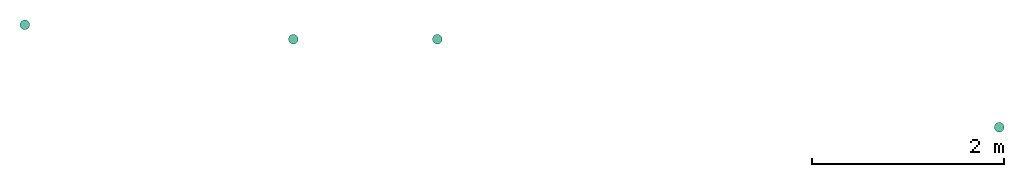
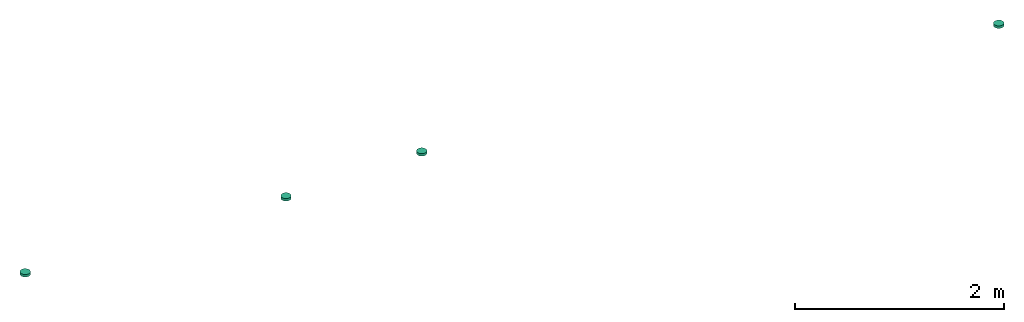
# One storey: 4 distribution control elements.
"""IFC2X3 building model written with IfcOpenShell, lengths in millimetres."""

from ifc_helpers import new_model, entity, si_unit, converted_unit, derived_unit, direction, frame, origin_with_axes, place, context, subcontext, project, spatial, open_shell, surface_model, source, transform, mapped, type_object, element, save


model = new_model("IFC2X3")

# Units and contexts
model_context = context("Model", 3, precision=0.01, world=frame((0.0, 4.29681676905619e-09, 0.0)), true_north=direction((4.01073788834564e-13, 1.0)))
plan_context = context("Plan", 3, precision=0.01, world=frame((0.0, 4.29681676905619e-09, 0.0)), true_north=direction((4.01073788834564e-13, 1.0)))
body_context = subcontext(model_context, "Body", "Model", "MODEL_VIEW")
ifc_project = project(units=[converted_unit("PLANEANGLEUNIT", "DEGREE", entity("IfcPositiveLengthMeasure", 0.0174532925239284), si_unit("PLANEANGLEUNIT", "RADIAN"), dimensions=[0, 0, 0, 0, 0, 0, 0]), si_unit("AREAUNIT", "SQUARE_METRE"), si_unit("LENGTHUNIT", "METRE", prefix="MILLI"), si_unit("MASSUNIT", "GRAM", prefix="KILO"), si_unit("POWERUNIT", "WATT"), si_unit("PRESSUREUNIT", "PASCAL", prefix="KILO"), si_unit("FORCEUNIT", "NEWTON", prefix="KILO"), si_unit("ELECTRICVOLTAGEUNIT", "VOLT"), si_unit("ELECTRICCURRENTUNIT", "AMPERE"), si_unit("THERMODYNAMICTEMPERATUREUNIT", "DEGREE_CELSIUS"), si_unit("TIMEUNIT", "SECOND"), si_unit("VOLUMEUNIT", "CUBIC_METRE"), derived_unit("LINEARVELOCITYUNIT", [(si_unit("LENGTHUNIT", "METRE"), 1), (si_unit("TIMEUNIT", "SECOND"), -1)]), derived_unit("VOLUMETRICFLOWRATEUNIT", [(si_unit("VOLUMEUNIT", "CUBIC_METRE"), 1), (si_unit("TIMEUNIT", "SECOND"), -1)]), derived_unit("THERMALTRANSMITTANCEUNIT", [(si_unit("POWERUNIT", "WATT"), 1), (si_unit("THERMODYNAMICTEMPERATUREUNIT", "KELVIN"), -1), (si_unit("AREAUNIT", "SQUARE_METRE"), -1)]), derived_unit("SOUNDPRESSUREUNIT", [(si_unit("PRESSUREUNIT", "PASCAL"), 1)])], contexts=[model_context, plan_context])

# Site, building, storey
site_placement = place(None, frame((0.0, -4.29681676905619e-09, 0.0), z_axis=(0.0, 0.0, 1.0), x_axis=(1.0, 0.0, 0.0)))
site = spatial("IfcSite", under=ifc_project, at=site_placement, Name="ENGM", CompositionType="ELEMENT")
building_placement = place(site_placement, frame((0.0, 4.29681676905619e-09, 0.0), z_axis=(0.0, 0.0, 1.0), x_axis=(1.0, 0.0, 0.0)))
building = spatial("IfcBuilding", under=site, at=building_placement, Name="TS", CompositionType="ELEMENT")
storey_placement = place(building_placement, frame((0.0, 0.0, 200300.0), z_axis=(0.0, 0.0, 1.0), x_axis=(1.0, 0.0, 0.0)))
storey = spatial("IfcBuildingStorey", under=building, at=storey_placement, Name="Nivå C", CompositionType="ELEMENT", Elevation=200300.0)

# Distribution control elements
alarm_type = type_object("IfcAlarmType", Name="Standard", PredefinedType="NOTDEFINED")
shared_shape = source(origin_with_axes(), body_context, "Body", "SurfaceModel", [
    surface_model("IfcShellBasedSurfaceModel", [(-25.0, 43.30127, -28.9), (-35.35534, 35.35534, -28.9), (-18.0, 31.17691, -28.9), (-25.45584, 25.45584, -28.9), (-9.31749, 34.77333, -28.9), (-12.94095, 48.29629, -28.9), (0.0, 36.0, -28.9), (0.0, 50.0, -28.9), (-34.77333, 9.31749, -28.9), (-43.30127, 25.0, -28.9), (-48.29629, 12.94095, -28.9), (-36.0, 0.0, -28.9), (-50.0, 0.0, -28.9), (-31.17691, 18.0, -28.9), (9.31749, 34.77333, -28.9), (12.94095, 48.29629, -28.9), (18.0, 31.17691, -28.9), (35.35534, 35.35534, -28.9), (25.0, 43.30127, -28.9), (25.45584, 25.45584, -28.9), (31.17691, 18.0, -28.9), (34.77333, 9.31749, -28.9), (43.30127, 25.0, -28.9), (48.29629, 12.94095, -28.9), (36.0, 0.0, -28.9), (50.0, 0.0, -28.9), (-34.77333, -9.31749, -28.9), (-48.29629, -12.94095, -28.9), (-31.17691, -18.0, -28.9), (-43.30127, -25.0, -28.9), (-25.45584, -25.45584, -28.9), (-35.35534, -35.35534, -28.9), (-18.0, -31.17691, -28.9), (-25.0, -43.30127, -28.9), (-9.31749, -34.77333, -28.9), (-12.94095, -48.29629, -28.9), (0.0, -36.0, -28.9), (0.0, -50.0, -28.9), (43.30127, -25.0, -28.9), (31.17691, -18.0, -28.9), (35.35534, -35.35534, -28.9), (34.77333, -9.31749, -28.9), (48.29629, -12.94095, -28.9), (25.45584, -25.45584, -28.9), (9.31749, -34.77333, -28.9), (12.94095, -48.29629, -28.9), (18.0, -31.17691, -28.9), (25.0, -43.30127, -28.9), (-25.0, -43.30127, -29.1), (-35.35534, -35.35534, -29.1), (-18.0, -31.17691, -29.1), (-25.45584, -25.45584, -29.1), (-9.31749, -34.77333, -29.1), (-12.94095, -48.29629, -29.1), (0.0, -36.0, -29.1), (0.0, -50.0, -29.1), (-34.77333, -9.31749, -29.1), (-43.30127, -25.0, -29.1), (-48.29629, -12.94095, -29.1), (-36.0, 0.0, -29.1), (-50.0, 0.0, -29.1), (-31.17691, -18.0, -29.1), (9.31749, -34.77333, -29.1), (12.94095, -48.29629, -29.1), (18.0, -31.17691, -29.1), (35.35534, -35.35534, -29.1), (25.0, -43.30127, -29.1), (25.45584, -25.45584, -29.1), (31.17691, -18.0, -29.1), (34.77333, -9.31749, -29.1), (43.30127, -25.0, -29.1), (48.29629, -12.94095, -29.1), (36.0, 0.0, -29.1), (50.0, 0.0, -29.1), (-34.77333, 9.31749, -29.1), (-48.29629, 12.94095, -29.1), (-31.17691, 18.0, -29.1), (-43.30127, 25.0, -29.1), (-25.45584, 25.45584, -29.1), (-35.35534, 35.35534, -29.1), (-18.0, 31.17691, -29.1), (-25.0, 43.30127, -29.1), (-9.31749, 34.77333, -29.1), (-12.94095, 48.29629, -29.1), (0.0, 36.0, -29.1), (0.0, 50.0, -29.1), (43.30127, 25.0, -29.1), (31.17691, 18.0, -29.1), (35.35534, 35.35534, -29.1), (34.77333, 9.31749, -29.1), (48.29629, 12.94095, -29.1), (25.45584, 25.45584, -29.1), (9.31749, 34.77333, -29.1), (12.94095, 48.29629, -29.1), (18.0, 31.17691, -29.1), (25.0, 43.30127, -29.1), (6.47048, -24.14815, -44.9), (12.5, -21.65064, -44.9), (17.67767, -17.67767, -44.9), (24.14815, -6.47048, -44.9), (-24.14815, -6.47048, -44.9), (21.65064, -12.5, -44.9), (-21.65064, 12.5, -44.9), (0.0, -25.0, -44.9), (-12.5, -21.65064, -44.9), (-6.47048, -24.14815, -44.9), (-17.67767, -17.67767, -44.9), (-21.65064, -12.5, -44.9), (25.0, 0.0, -44.9), (24.14815, 6.47048, -44.9), (21.65064, 12.5, -44.9), (17.67767, 17.67767, -44.9), (12.5, 21.65064, -44.9), (6.47048, 24.14815, -44.9), (0.0, 25.0, -44.9), (-25.0, 0.0, -44.9), (-24.14815, 6.47048, -44.9), (-12.5, 21.65064, -44.9), (-17.67767, 17.67767, -44.9), (-6.47048, 24.14815, -44.9), (0.0, 25.0, -45.1), (6.47048, 24.14815, -45.1), (12.5, 21.65064, -45.1), (-21.65064, 12.5, -45.1), (17.67767, 17.67767, -45.1), (21.65064, 12.5, -45.1), (24.14815, 6.47048, -45.1), (-12.5, 21.65064, -45.1), (-17.67767, 17.67767, -45.1), (-6.47048, 24.14815, -45.1), (-25.0, 0.0, -45.1), (-24.14815, 6.47048, -45.1), (-24.14815, -6.47048, -45.1), (24.14815, -6.47048, -45.1), (6.47048, -24.14815, -45.1), (21.65064, -12.5, -45.1), (17.67767, -17.67767, -45.1), (12.5, -21.65064, -45.1), (-12.5, -21.65064, -45.1), (-17.67767, -17.67767, -45.1), (-21.65064, -12.5, -45.1), (0.0, -25.0, -45.1), (-6.47048, -24.14815, -45.1), (25.0, 0.0, -45.1), (-1.46739, 34.60682, -29.0), (0.0, 34.8, -29.0), (0.0, 35.0, -29.0), (-34.60682, 1.46739, -29.0), (-35.0, 0.0, -29.0), (-34.8, 0.0, -29.0), (-17.5, 30.31089, -29.0), (-18.5742, 29.23669, -29.0), (-17.4, 30.13768, -29.0), (-24.60732, -24.60732, -29.0), (-18.5742, -29.23669, -29.0), (-29.23669, -18.5742, -29.0), (34.8, 0.0, -29.0), (34.60682, -1.46739, -29.0), (35.0, 0.0, -29.0), (17.4, 30.13768, -29.0), (17.5, 30.31089, -29.0), (16.03261, 30.70407, -29.0), (30.13768, 17.4, -29.0), (30.31089, 17.5, -29.0), (29.23669, 18.5742, -29.0), (34.60682, 1.46739, -29.0), (33.61422, -9.0069, -29.0), (30.70407, -16.03261, -29.0), (-33.61422, -9.0069, -29.0), (-30.70407, -16.03261, -29.0), (-34.60682, -1.46739, -29.0), (-30.13768, -17.4, -29.0), (-30.31089, -17.5, -29.0), (-17.5, -30.31089, -29.0), (-17.4, -30.13768, -29.0), (-1.46739, -34.60682, -29.0), (0.0, -35.0, -29.0), (0.0, -34.8, -29.0), (-16.03261, -30.70407, -29.0), (-9.0069, -33.61422, -29.0), (1.46739, -34.60682, -29.0), (30.13768, -17.4, -29.0), (29.23669, -18.5742, -29.0), (30.31089, -17.5, -29.0), (24.60732, -24.60732, -29.0), (18.5742, -29.23669, -29.0), (9.0069, -33.61422, -29.0), (16.03261, -30.70407, -29.0), (-30.13768, 17.4, -29.0), (-30.31089, 17.5, -29.0), (-30.70407, 16.03261, -29.0), (17.4, -30.13768, -29.0), (17.5, -30.31089, -29.0), (-33.61422, 9.0069, -29.0), (-29.23669, 18.5742, -29.0), (-24.60732, 24.60732, -29.0), (-16.03261, 30.70407, -29.0), (-9.0069, 33.61422, -29.0), (1.46739, 34.60682, -29.0), (9.0069, 33.61422, -29.0), (18.5742, 29.23669, -29.0), (24.60732, 24.60732, -29.0), (30.70407, 16.03261, -29.0), (33.61422, 9.0069, -29.0), (23.00389, 18.55381, -38.25), (14.9, 25.80756, -38.25), (21.07178, 21.07178, -38.25), (29.66376, 1.03484, -38.25), (30.0, 0.0, -38.25), (29.8, 0.0, -38.25), (24.27051, 17.63356, -38.25), (24.68215, 16.36666, -38.25), (10.52665, 27.61906, -38.25), (28.78459, 7.71281, -38.25), (-10.52665, 27.61906, -38.25), (-23.00389, 18.55381, -38.25), (-14.9, 25.80756, -38.25), (8.32335, 28.5317, -38.25), (0.0, 29.8, -38.25), (7.71281, 28.78459, -38.25), (-8.32335, 28.5317, -38.25), (-24.68215, 16.36666, -38.25), (-28.78459, 7.71281, -38.25), (-25.80756, 14.9, -38.25), (-9.27051, 28.5317, -38.25), (-29.66376, 1.03484, -38.25), (-29.8, 0.0, -38.25), (-30.0, 0.0, -38.25), (-28.78459, -7.71281, -38.25), (-24.68215, -16.36666, -38.25), (-25.80756, -14.9, -38.25), (29.66376, -1.03484, -38.25), (-7.71281, 28.78459, -38.25), (25.80756, 14.9, -38.25), (14.9, -25.80756, -38.25), (10.52665, -27.61906, -38.25), (23.00389, -18.55381, -38.25), (28.78459, -7.71281, -38.25), (24.68215, -16.36666, -38.25), (0.0, -29.8, -38.25), (-7.71281, -28.78459, -38.25), (-8.32335, -28.5317, -38.25), (8.32335, -28.5317, -38.25), (9.27051, 28.5317, -38.25), (-29.66376, -1.03484, -38.25), (21.07178, -21.07178, -38.25), (-23.00389, -18.55381, -38.25), (-24.27051, -17.63356, -38.25), (-9.27051, -28.5317, -38.25), (-10.52665, -27.61906, -38.25), (-21.07178, -21.07178, -38.25), (-14.9, -25.80756, -38.25), (9.27051, -28.5317, -38.25), (7.71281, -28.78459, -38.25), (24.27051, -17.63356, -38.25), (25.80756, -14.9, -38.25), (-21.07178, 21.07178, -38.25), (-24.27051, 17.63356, -38.25), (33.28589, -6.39713, -29.0), (27.13526, -8.81678, -38.25), (-16.77051, -23.08263, -38.25), (-23.90544, -23.90544, -29.0), (-27.13526, -8.81678, -38.25), (-33.28589, -6.39713, -29.0), (16.77051, -23.08263, -38.25), (8.75, -32.65544, -29.0), (0.0, -28.5317, -38.25), (23.90544, -23.90544, -29.0), (-8.75, -32.65544, -29.0), (-33.28589, 6.39713, -29.0), (-27.13526, 8.81678, -38.25), (16.77051, 23.08263, -38.25), (23.90544, 23.90544, -29.0), (27.13526, 8.81678, -38.25), (33.28589, 6.39713, -29.0), (-16.77051, 23.08263, -38.25), (-8.75, 32.65544, -29.0), (0.0, 28.5317, -38.25), (-23.90544, 23.90544, -29.0), (8.75, 32.65544, -29.0), (12.4, 21.47743, -45.0), (17.53625, 17.53625, -45.0), (19.07577, 15.5299, -45.0), (20.22543, 14.69463, -45.0), (20.59905, 13.54472, -45.0), (24.66376, 1.03484, -45.0), (25.0, 0.0, -45.0), (24.8, 0.0, -45.0), (8.88673, 22.93267, -45.0), (23.95496, 6.41871, -45.0), (-8.88673, 22.93267, -45.0), (-19.07577, 15.5299, -45.0), (-12.4, 21.47743, -45.0), (6.84976, 23.77641, -45.0), (0.0, 24.8, -45.0), (6.41871, 23.95496, -45.0), (-7.72542, 23.77641, -45.0), (-6.84976, 23.77641, -45.0), (-21.47743, 12.4, -45.0), (-20.59905, 13.54472, -45.0), (-23.95496, 6.41871, -45.0), (-25.0, 0.0, -45.0), (-24.66376, 1.03484, -45.0), (-24.8, 0.0, -45.0), (-23.95496, -6.41871, -45.0), (-20.59905, -13.54472, -45.0), (-21.47743, -12.4, -45.0), (-6.41871, 23.95496, -45.0), (24.66376, -1.03484, -45.0), (21.47743, 12.4, -45.0), (12.4, -21.47743, -45.0), (8.88673, -22.93267, -45.0), (19.07577, -15.5299, -45.0), (23.95496, -6.41871, -45.0), (20.59905, -13.54472, -45.0), (0.0, -24.8, -45.0), (-6.41871, -23.95496, -45.0), (-6.84976, -23.77641, -45.0), (7.72542, -23.77641, -45.0), (6.84976, -23.77641, -45.0), (7.72542, 23.77641, -45.0), (-24.66376, -1.03484, -45.0), (17.53625, -17.53625, -45.0), (-20.22543, -14.69463, -45.0), (-19.07577, -15.5299, -45.0), (-8.88673, -22.93267, -45.0), (-7.72542, -23.77641, -45.0), (-17.53625, -17.53625, -45.0), (-12.4, -21.47743, -45.0), (6.41871, -23.95496, -45.0), (20.22543, -14.69463, -45.0), (21.47743, -12.4, -45.0), (-17.53625, 17.53625, -45.0), (-20.22543, 14.69463, -45.0), (-22.61271, -7.34732, -45.0), (-13.97542, -19.23552, -45.0), (0.0, -23.77641, -45.0), (21.83768, -9.73262, -45.0), (13.97542, -19.23552, -45.0), (23.41884, -4.86631, -45.0), (22.61271, 7.34732, -45.0), (13.97542, 19.23552, -45.0), (0.0, 23.77641, -45.0), (-21.83768, 9.73262, -45.0), (-13.97542, 19.23552, -45.0), (-23.41884, 4.86631, -45.0), (12.94095, -48.29629, 0.0), (25.0, -43.30127, 0.0), (35.35534, -35.35534, 0.0), (48.29629, -12.94095, 0.0), (-48.29629, -12.94095, 0.0), (43.30127, -25.0, 0.0), (-43.30127, 25.0, 0.0), (0.0, -50.0, 0.0), (-25.0, -43.30127, 0.0), (-12.94095, -48.29629, 0.0), (-35.35534, -35.35534, 0.0), (-43.30127, -25.0, 0.0), (50.0, 0.0, 0.0), (48.29629, 12.94095, 0.0), (43.30127, 25.0, 0.0), (35.35534, 35.35534, 0.0), (25.0, 43.30127, 0.0), (12.94095, 48.29629, 0.0), (0.0, 50.0, 0.0), (-50.0, 0.0, 0.0), (-48.29629, 12.94095, 0.0), (-25.0, 43.30127, 0.0), (-35.35534, 35.35534, 0.0), (-12.94095, 48.29629, 0.0), (0.0, 50.0, -29.0), (12.94095, 48.29629, -29.0), (25.0, 43.30127, -29.0), (-43.30127, 25.0, -29.0), (35.35534, 35.35534, -29.0), (43.30127, 25.0, -29.0), (48.29629, 12.94095, -29.0), (-25.0, 43.30127, -29.0), (-35.35534, 35.35534, -29.0), (-12.94095, 48.29629, -29.0), (-50.0, 0.0, -29.0), (-48.29629, 12.94095, -29.0), (-48.29629, -12.94095, -29.0), (48.29629, -12.94095, -29.0), (12.94095, -48.29629, -29.0), (43.30127, -25.0, -29.0), (35.35534, -35.35534, -29.0), (25.0, -43.30127, -29.0), (-25.0, -43.30127, -29.0), (-35.35534, -35.35534, -29.0), (-43.30127, -25.0, -29.0), (0.0, -50.0, -29.0), (-12.94095, -48.29629, -29.0), (50.0, 0.0, -29.0)], [open_shell([[[0, 1, 2]], [[2, 1, 3]], [[0, 2, 4]], [[5, 4, 6]], [[4, 5, 0]], [[5, 6, 7]], [[8, 9, 10]], [[11, 10, 12]], [[8, 10, 11]], [[13, 3, 9]], [[8, 13, 9]], [[9, 3, 1]], [[7, 14, 15]], [[14, 7, 6]], [[15, 14, 16]], [[17, 18, 19]], [[16, 18, 15]], [[19, 18, 16]], [[20, 21, 22]], [[20, 22, 17]], [[21, 23, 22]], [[23, 21, 24]], [[23, 24, 25]], [[20, 17, 19]], [[26, 12, 27]], [[28, 27, 29]], [[28, 26, 27]], [[30, 28, 29]], [[29, 31, 30]], [[32, 31, 33]], [[31, 32, 30]], [[32, 33, 34]], [[34, 35, 36]], [[35, 34, 33]], [[36, 35, 37]], [[38, 39, 40]], [[41, 39, 42]], [[41, 42, 25]], [[42, 39, 38]], [[39, 43, 40]], [[25, 24, 41]], [[44, 37, 45]], [[37, 44, 36]], [[44, 45, 46]], [[47, 40, 43]], [[47, 46, 45]], [[47, 43, 46]], [[26, 11, 12]], [[48, 49, 50]], [[50, 49, 51]], [[48, 50, 52]], [[53, 52, 54]], [[52, 53, 48]], [[53, 54, 55]], [[56, 57, 58]], [[59, 58, 60]], [[56, 58, 59]], [[61, 51, 57]], [[56, 61, 57]], [[57, 51, 49]], [[55, 62, 63]], [[62, 55, 54]], [[63, 62, 64]], [[65, 66, 67]], [[64, 66, 63]], [[67, 66, 64]], [[68, 69, 70]], [[68, 70, 65]], [[69, 71, 70]], [[71, 69, 72]], [[71, 72, 73]], [[68, 65, 67]], [[74, 60, 75]], [[76, 75, 77]], [[76, 74, 75]], [[78, 76, 77]], [[77, 79, 78]], [[80, 79, 81]], [[79, 80, 78]], [[80, 81, 82]], [[82, 83, 84]], [[83, 82, 81]], [[84, 83, 85]], [[86, 87, 88]], [[89, 87, 90]], [[89, 90, 73]], [[90, 87, 86]], [[87, 91, 88]], [[73, 72, 89]], [[92, 85, 93]], [[85, 92, 84]], [[92, 93, 94]], [[95, 88, 91]], [[95, 94, 93]], [[95, 91, 94]], [[74, 59, 60]], [[11, 59, 8]], [[8, 74, 13]], [[2, 3, 78]], [[76, 3, 13]], [[4, 2, 80]], [[74, 76, 13]], [[8, 59, 74]], [[84, 6, 82]], [[4, 80, 82]], [[80, 2, 78]], [[3, 76, 78]], [[4, 82, 6]], [[14, 92, 16]], [[16, 94, 19]], [[21, 20, 87]], [[91, 20, 19]], [[24, 21, 89]], [[92, 94, 16]], [[14, 84, 92]], [[21, 87, 89]], [[87, 20, 91]], [[19, 94, 91]], [[24, 89, 72]], [[6, 84, 14]], [[24, 72, 41]], [[41, 69, 39]], [[46, 43, 67]], [[68, 43, 39]], [[44, 46, 64]], [[69, 68, 39]], [[41, 72, 69]], [[54, 36, 62]], [[44, 64, 62]], [[64, 46, 67]], [[43, 68, 67]], [[44, 62, 36]], [[34, 52, 32]], [[32, 50, 30]], [[26, 28, 61]], [[51, 28, 30]], [[11, 26, 56]], [[52, 50, 32]], [[34, 54, 52]], [[26, 61, 56]], [[61, 28, 51]], [[30, 50, 51]], [[11, 56, 59]], [[36, 54, 34]], [[58, 27, 60]], [[57, 29, 58]], [[33, 49, 48]], [[57, 49, 31]], [[35, 48, 53]], [[58, 29, 27]], [[27, 12, 60]], [[35, 33, 48]], [[31, 49, 33]], [[31, 29, 57]], [[37, 35, 53]], [[53, 55, 37]], [[63, 45, 55]], [[66, 47, 63]], [[38, 65, 70]], [[66, 65, 40]], [[42, 70, 71]], [[66, 40, 47]], [[47, 45, 63]], [[25, 42, 71]], [[38, 70, 42]], [[38, 40, 65]], [[73, 25, 71]], [[55, 45, 37]], [[90, 23, 73]], [[86, 22, 90]], [[18, 88, 95]], [[86, 88, 17]], [[15, 95, 93]], [[90, 22, 23]], [[23, 25, 73]], [[15, 18, 95]], [[17, 88, 18]], [[17, 22, 86]], [[7, 15, 93]], [[93, 85, 7]], [[83, 5, 85]], [[81, 0, 83]], [[9, 79, 77]], [[81, 79, 1]], [[10, 77, 75]], [[81, 1, 0]], [[0, 5, 83]], [[12, 10, 75]], [[9, 77, 10]], [[9, 1, 79]], [[60, 12, 75]], [[85, 5, 7]], [[96, 97, 98]], [[96, 98, 99]], [[96, 99, 100]], [[99, 98, 101]], [[102, 100, 99]], [[103, 104, 105]], [[103, 96, 104]], [[106, 100, 107]], [[106, 104, 96]], [[100, 106, 96]], [[99, 108, 102]], [[109, 110, 111]], [[109, 111, 112]], [[112, 113, 114]], [[109, 112, 102]], [[102, 112, 114]], [[115, 102, 116]], [[100, 102, 115]], [[102, 117, 118]], [[117, 102, 119]], [[114, 119, 102]], [[102, 108, 109]], [[120, 121, 122]], [[123, 120, 122]], [[124, 125, 126]], [[124, 126, 122]], [[123, 122, 126]], [[127, 123, 128]], [[123, 127, 129]], [[123, 130, 131]], [[123, 129, 120]], [[123, 132, 130]], [[123, 126, 133]], [[132, 123, 133]], [[134, 133, 135]], [[136, 137, 134]], [[136, 134, 135]], [[138, 133, 134]], [[132, 139, 140]], [[132, 133, 139]], [[138, 141, 142]], [[139, 133, 138]], [[134, 141, 138]], [[133, 126, 143]], [[132, 100, 130]], [[140, 107, 132]], [[104, 139, 138]], [[140, 139, 106]], [[105, 138, 142]], [[132, 107, 100]], [[100, 115, 130]], [[105, 104, 138]], [[106, 139, 104]], [[106, 107, 140]], [[103, 105, 142]], [[142, 141, 103]], [[134, 96, 141]], [[137, 97, 134]], [[101, 136, 135]], [[137, 136, 98]], [[99, 135, 133]], [[137, 98, 97]], [[97, 96, 134]], [[108, 99, 133]], [[101, 135, 99]], [[101, 98, 136]], [[143, 108, 133]], [[141, 96, 103]], [[126, 109, 143]], [[125, 110, 126]], [[112, 124, 122]], [[125, 124, 111]], [[113, 122, 121]], [[126, 110, 109]], [[109, 108, 143]], [[113, 112, 122]], [[111, 124, 112]], [[111, 110, 125]], [[114, 113, 121]], [[121, 120, 114]], [[129, 119, 120]], [[127, 117, 129]], [[102, 128, 123]], [[127, 128, 118]], [[116, 123, 131]], [[127, 118, 117]], [[117, 119, 129]], [[115, 116, 131]], [[102, 123, 116]], [[102, 118, 128]], [[130, 115, 131]], [[120, 119, 114]], [[144, 145, 146]], [[147, 148, 149]], [[150, 151, 152]], [[153, 154, 155]], [[156, 157, 158]], [[159, 160, 161]], [[162, 163, 164]], [[156, 158, 165]], [[166, 157, 167]], [[168, 169, 170]], [[170, 149, 148]], [[171, 169, 172]], [[173, 174, 154]], [[175, 176, 177]], [[174, 173, 178]], [[155, 171, 172]], [[179, 175, 178]], [[180, 177, 176]], [[181, 182, 183]], [[181, 183, 167]], [[184, 182, 185]], [[186, 187, 180]], [[188, 189, 190]], [[191, 192, 185]], [[191, 187, 192]], [[193, 147, 190]], [[188, 194, 189]], [[195, 194, 151]], [[152, 196, 150]], [[197, 196, 144]], [[145, 198, 146]], [[199, 198, 161]], [[159, 200, 160]], [[201, 200, 164]], [[162, 202, 163]], [[203, 202, 165]], [[204, 205, 206]], [[207, 208, 209]], [[204, 210, 211]], [[205, 204, 212]], [[213, 207, 211]], [[214, 215, 216]], [[217, 218, 219]], [[218, 217, 220]], [[221, 222, 223]], [[220, 214, 224]], [[225, 226, 227]], [[228, 229, 230]], [[209, 208, 231]], [[218, 220, 232]], [[213, 211, 233]], [[234, 235, 236]], [[237, 238, 231]], [[239, 240, 241]], [[241, 242, 239]], [[243, 212, 217]], [[227, 226, 244]], [[234, 236, 245]], [[229, 246, 247]], [[241, 248, 249]], [[250, 246, 251]], [[228, 244, 229]], [[235, 252, 242]], [[239, 242, 253]], [[236, 238, 254]], [[238, 237, 255]], [[251, 246, 249]], [[216, 215, 256]], [[215, 221, 257]], [[222, 221, 225]], [[208, 158, 258]], [[183, 259, 258]], [[260, 261, 247]], [[172, 262, 247]], [[263, 227, 262]], [[192, 252, 264]], [[260, 248, 173]], [[261, 260, 173]], [[252, 265, 266]], [[227, 263, 148]], [[172, 263, 262]], [[258, 259, 208]], [[254, 267, 264]], [[268, 173, 248]], [[252, 192, 265]], [[192, 264, 267]], [[267, 254, 183]], [[259, 183, 254]], [[268, 266, 176]], [[265, 176, 266]], [[248, 266, 268]], [[172, 247, 261]], [[227, 148, 269]], [[189, 270, 269]], [[271, 272, 210]], [[163, 273, 210]], [[274, 208, 273]], [[150, 224, 275]], [[271, 243, 160]], [[272, 271, 160]], [[224, 276, 277]], [[208, 274, 158]], [[163, 274, 273]], [[269, 270, 227]], [[257, 278, 275]], [[279, 160, 243]], [[224, 150, 276]], [[150, 275, 278]], [[278, 257, 189]], [[270, 189, 257]], [[279, 277, 146]], [[276, 146, 277]], [[243, 277, 279]], [[163, 210, 272]], [[171, 230, 228]], [[168, 228, 226]], [[179, 240, 251]], [[174, 251, 250]], [[153, 250, 230]], [[168, 171, 228]], [[226, 149, 168]], [[251, 174, 179]], [[174, 250, 153]], [[230, 171, 153]], [[240, 179, 177]], [[177, 239, 240]], [[184, 245, 234]], [[191, 234, 253]], [[156, 209, 237]], [[166, 237, 255]], [[181, 255, 245]], [[239, 186, 253]], [[186, 191, 253]], [[177, 186, 239]], [[184, 181, 245]], [[191, 184, 234]], [[181, 166, 255]], [[166, 156, 237]], [[162, 233, 213]], [[203, 213, 209]], [[199, 219, 205]], [[159, 205, 206]], [[201, 206, 233]], [[203, 162, 213]], [[209, 156, 203]], [[205, 159, 199]], [[159, 206, 201]], [[233, 162, 201]], [[219, 199, 145]], [[145, 218, 219]], [[195, 256, 216]], [[152, 216, 232]], [[149, 226, 222]], [[193, 222, 223]], [[188, 223, 256]], [[218, 197, 232]], [[197, 152, 232]], [[145, 197, 218]], [[195, 188, 256]], [[152, 195, 216]], [[188, 193, 223]], [[193, 149, 222]], [[215, 216, 256]], [[221, 222, 225]], [[225, 227, 226]], [[257, 221, 215]], [[216, 215, 214]], [[212, 204, 205]], [[220, 218, 232]], [[218, 220, 217]], [[217, 212, 243]], [[233, 211, 213]], [[208, 207, 209]], [[237, 238, 255]], [[252, 235, 242]], [[218, 217, 219]], [[227, 244, 226]], [[222, 221, 223]], [[228, 229, 244]], [[239, 253, 242]], [[246, 251, 249]], [[249, 248, 241]], [[231, 238, 237]], [[208, 209, 231]], [[251, 246, 250]], [[254, 238, 236]], [[236, 234, 245]], [[214, 220, 224]], [[242, 241, 239]], [[239, 241, 240]], [[246, 229, 247]], [[230, 229, 228]], [[234, 236, 235]], [[205, 204, 206]], [[204, 211, 210]], [[213, 211, 207]], [[280, 281, 282]], [[282, 283, 284]], [[285, 286, 287]], [[280, 282, 288]], [[289, 285, 284]], [[290, 291, 292]], [[293, 294, 295]], [[290, 296, 297]], [[294, 293, 297]], [[298, 299, 300]], [[301, 302, 303]], [[304, 305, 306]], [[294, 297, 307]], [[308, 287, 286]], [[289, 284, 309]], [[310, 311, 312]], [[313, 314, 308]], [[315, 316, 317]], [[311, 318, 319]], [[293, 320, 288]], [[301, 303, 321]], [[310, 312, 322]], [[323, 305, 324]], [[325, 317, 326]], [[327, 324, 328]], [[304, 321, 305]], [[317, 319, 315]], [[315, 319, 329]], [[312, 314, 330]], [[331, 314, 313]], [[328, 324, 325]], [[292, 291, 332]], [[291, 299, 333]], [[300, 299, 302]], [[262, 301, 334]], [[334, 323, 247]], [[248, 335, 326]], [[301, 262, 227]], [[334, 247, 262]], [[260, 323, 335]], [[266, 248, 326]], [[336, 252, 266]], [[252, 336, 318]], [[323, 260, 247]], [[248, 260, 335]], [[254, 337, 259]], [[318, 264, 252]], [[338, 254, 264]], [[339, 286, 208]], [[264, 318, 338]], [[259, 339, 208]], [[338, 330, 254]], [[266, 326, 336]], [[259, 337, 339]], [[337, 254, 330]], [[273, 286, 340]], [[340, 283, 210]], [[243, 341, 320]], [[286, 273, 208]], [[340, 210, 273]], [[271, 283, 341]], [[277, 243, 320]], [[342, 224, 277]], [[224, 342, 296]], [[283, 271, 210]], [[243, 271, 341]], [[257, 343, 270]], [[296, 275, 224]], [[344, 257, 275]], [[345, 301, 227]], [[275, 296, 344]], [[270, 345, 227]], [[344, 333, 257]], [[277, 320, 342]], [[270, 343, 345]], [[343, 257, 333]], [[230, 306, 304]], [[228, 304, 303]], [[240, 316, 328]], [[251, 328, 327]], [[250, 327, 306]], [[228, 230, 304]], [[303, 226, 228]], [[328, 251, 240]], [[251, 327, 250]], [[306, 230, 250]], [[316, 240, 239]], [[239, 315, 316]], [[245, 322, 310]], [[234, 310, 329]], [[209, 287, 313]], [[237, 313, 331]], [[255, 331, 322]], [[315, 253, 329]], [[253, 234, 329]], [[239, 253, 315]], [[255, 322, 245]], [[234, 245, 310]], [[331, 255, 237]], [[237, 209, 313]], [[233, 309, 289]], [[213, 289, 287]], [[219, 295, 280]], [[205, 280, 281]], [[206, 281, 309]], [[213, 233, 289]], [[287, 209, 213]], [[280, 205, 219]], [[205, 281, 206]], [[309, 233, 206]], [[295, 219, 218]], [[218, 294, 295]], [[256, 332, 292]], [[216, 292, 307]], [[226, 303, 300]], [[222, 300, 298]], [[223, 298, 332]], [[294, 232, 307]], [[232, 216, 307]], [[218, 232, 294]], [[223, 332, 256]], [[216, 256, 292]], [[298, 223, 222]], [[222, 226, 300]], [[346, 347, 348]], [[346, 348, 349]], [[346, 349, 350]], [[349, 348, 351]], [[352, 350, 349]], [[353, 354, 355]], [[353, 346, 354]], [[356, 350, 357]], [[356, 354, 346]], [[350, 356, 346]], [[349, 358, 352]], [[359, 360, 361]], [[359, 361, 362]], [[362, 363, 364]], [[359, 362, 352]], [[352, 362, 364]], [[365, 352, 366]], [[350, 352, 365]], [[352, 367, 368]], [[367, 352, 369]], [[364, 369, 352]], [[352, 358, 359]], [[370, 371, 372]], [[373, 370, 372]], [[374, 375, 376]], [[374, 376, 372]], [[373, 372, 376]], [[377, 373, 378]], [[373, 377, 379]], [[373, 380, 381]], [[373, 379, 370]], [[373, 382, 380]], [[373, 376, 383]], [[382, 373, 383]], [[384, 383, 385]], [[386, 387, 384]], [[386, 384, 385]], [[388, 383, 384]], [[382, 389, 390]], [[382, 383, 389]], [[388, 391, 392]], [[389, 383, 388]], [[384, 391, 388]], [[383, 376, 393]], [[382, 350, 380]], [[390, 357, 382]], [[354, 389, 388]], [[390, 389, 356]], [[355, 388, 392]], [[382, 357, 350]], [[350, 365, 380]], [[355, 354, 388]], [[356, 389, 354]], [[356, 357, 390]], [[353, 355, 392]], [[392, 391, 353]], [[384, 346, 391]], [[387, 347, 384]], [[351, 386, 385]], [[387, 386, 348]], [[349, 385, 383]], [[387, 348, 347]], [[347, 346, 384]], [[358, 349, 383]], [[351, 385, 349]], [[351, 348, 386]], [[393, 358, 383]], [[391, 346, 353]], [[376, 359, 393]], [[375, 360, 376]], [[362, 374, 372]], [[375, 374, 361]], [[363, 372, 371]], [[376, 360, 359]], [[359, 358, 393]], [[363, 362, 372]], [[361, 374, 362]], [[361, 360, 375]], [[364, 363, 371]], [[371, 370, 364]], [[369, 370, 379]], [[367, 379, 377]], [[352, 373, 381]], [[366, 381, 380]], [[379, 367, 369]], [[367, 377, 378]], [[367, 378, 368]], [[368, 378, 352]], [[352, 378, 373]], [[352, 381, 366]], [[380, 365, 366]], [[370, 369, 364]]])]),
])
for number, where, z_axis, x_axis, name in (
    (1, (595354.84889, 401444.74887, 3100.0), (0.0, 0.0, 1.0), (1.0, 0.0, 0.0), "Standard"),
    (2, (598150.28688, 401294.74887, 3100.0), (0.0, 0.0, 1.0), (1.0, 0.0, 0.0), "Standard"),
    (3, (599650.28688, 401294.74887, 3100.0), (0.0, 0.0, 1.0), (1.0, 0.0, 0.0), "Standard"),
    (4, (605498.97223, 400378.55855, 3100.0), (0.0, 0.0, 1.0), (1.0, 0.0, 0.0), "Standard"),
):
    element("IfcDistributionControlElement", number, at=place(storey_placement, frame(where, z_axis=z_axis, x_axis=x_axis)), inside=storey, type_object=alarm_type, Name=name, context=body_context, shape_type="MappedRepresentation", body=[
        mapped(shared_shape, transform((0.0, 0.0, 0.0), scale=1.0)),
    ])

save(model, "model.ifc")
